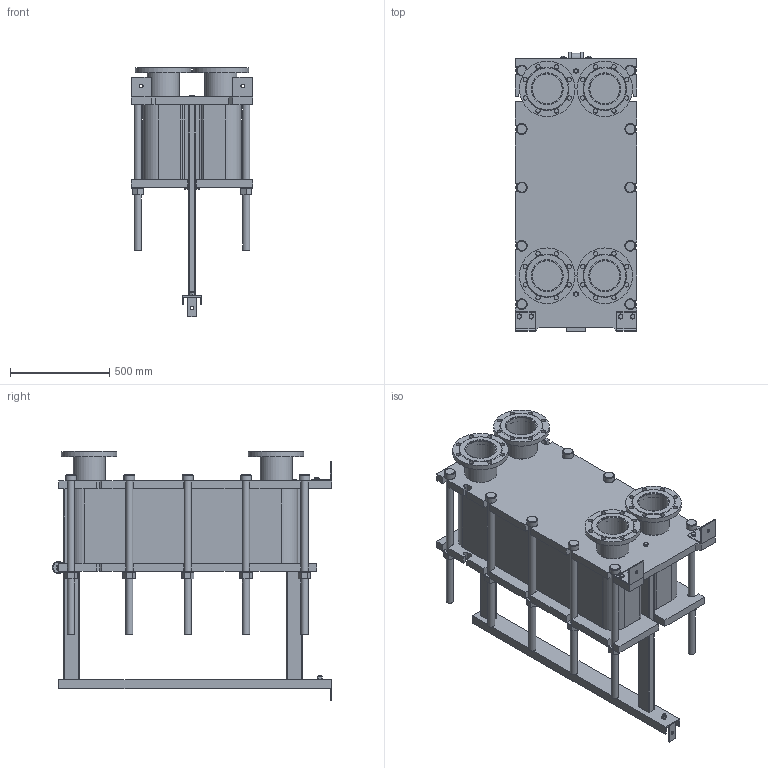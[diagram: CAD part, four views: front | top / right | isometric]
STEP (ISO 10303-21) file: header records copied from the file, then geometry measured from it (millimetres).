
FILE_DESCRIPTION(/* description */ (''),/* implementation_level */ '2;1');
FILE_NAME(/* name */ 'C:\Users\zhuro\Desktop\ENCO\TO\ЭН-041\ЭН-0,5-041-109-1.stp',/* time_stamp */ '2022-06-06T10:58:47+03:00',/* author */ ('zhuro'),/* organization */ (''),/* preprocessor_version */ 'ST-DEVELOPER v18.1',/* originating_system */ 'Autodesk Inventor 2022',/* authorisation */ '');
FILE_SCHEMA (('AUTOMOTIVE_DESIGN { 1 0 10303 214 3 1 1 }'));
Length unit declared in the file: millimetre
Products named in the file (1): ЭН-0,5-041-109-1
Bounding box: 610 x 1406.5 x 1257.5 mm (x, y, z)
Volume: 292610143.6 mm3; surface area: 9222953.7 mm2
Topology: 52 solids, 52 shells, 711 faces, 1696 edges, 1094 vertices
Faces by surface type: plane 487, cylinder 177, cone 41, torus 6
Full cylindrical faces by diameter (mm): 8 x4, 10 x2, 16 x8, 18 x3, 22 x32, 36 x24, 50 x1, 54 x10, 60 x12, 151 x4, 161 x8, 280 x4
Entity records: 22667 total; most frequent: CARTESIAN_POINT 5230, DIRECTION 3644, ORIENTED_EDGE 3392, EDGE_CURVE 1696, AXIS2_PLACEMENT_3D 1272, LINE 1100, VECTOR 1100, VERTEX_POINT 1094
